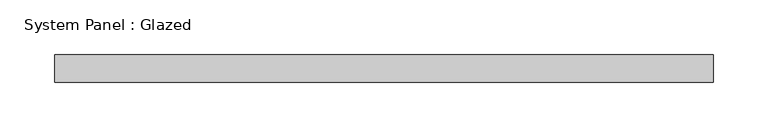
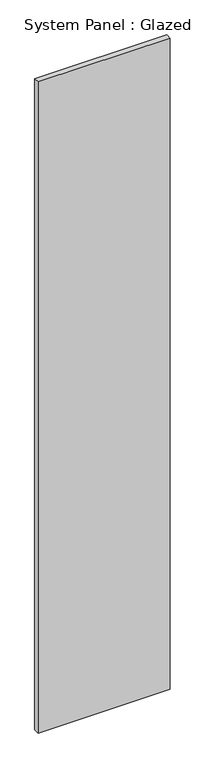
"""IFC4 building model written with IfcOpenShell, lengths in millimetres: plate geometry, System Panel : Glazed."""

from ifc_helpers import new_model, si_unit, origin, origin_with_axes, place, context, project, spatial, polyline, outline, extrude, source, transform, mapped, element, save


def system_panel_glazed_46705a58(model_context):
    return source(origin(), model_context, "Body", "SweptSolid", [
        extrude(outline(polyline([(300.0, 24.5), (-300.0, 24.5), (-300.0, 49.5), (300.0, 49.5), (300.0, 24.5)])), origin_with_axes(), (0.0, 0.0, 1.0), 3125.0),
    ])


if __name__ == "__main__":
    model = new_model("IFC4")
    model_context = context("Model", 3, world=origin())
    ifc_project = project(units=[si_unit("LENGTHUNIT", "METRE", prefix="MILLI")], contexts=[model_context])
    site = spatial("IfcSite", under=ifc_project)
    building = spatial("IfcBuilding", under=site)
    placement = place(None, origin())
    system_panel_glazed_shape = system_panel_glazed_46705a58(model_context)
    element("IfcPlate", 1, ObjectType="System Panel : Glazed", at=placement, inside=building, context=model_context, shape_type="MappedRepresentation", body=[
        mapped(system_panel_glazed_shape, transform((0.0, 0.0, 0.0), x_axis=(1.0, 0.0, 0.0), y_axis=(0.0, 1.0, 0.0), z_axis=(0.0, 0.0, 1.0))),
    ])
    save(model, "model.ifc")
